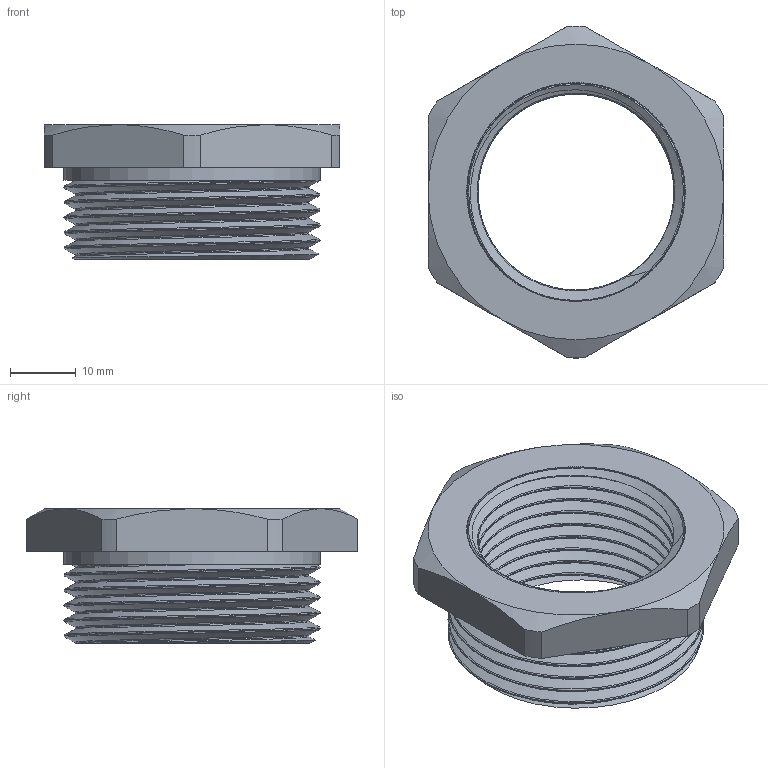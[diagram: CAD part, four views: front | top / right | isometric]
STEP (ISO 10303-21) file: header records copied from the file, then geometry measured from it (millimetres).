
FILE_DESCRIPTION(/* description */ (''),/* implementation_level */ '2;1');
FILE_NAME(/* name */ 'C:\Users\Doom\Desktop\Фадотех\Резьба\PF06 18.03.2020\PF06 18.03.2020.stp',/* time_stamp */ '2022-01-14T01:07:08+02:00',/* author */ ('Doom'),/* organization */ (''),/* preprocessor_version */ 'ST-DEVELOPER v18',/* originating_system */ 'Autodesk Inventor 2020',/* authorisation */ '');
FILE_SCHEMA (('AUTOMOTIVE_DESIGN { 1 0 10303 214 3 1 1 }'));
Length unit declared in the file: millimetre
Products named in the file (1): PF06 18.03.2020
Bounding box: 45 x 50.49 x 20.5 mm (x, y, z)
Volume: 13861.4 mm3; surface area: 17119.2 mm2
Topology: 3 solids, 3 shells, 64 faces, 165 edges, 109 vertices
Faces by surface type: cylinder 30, plane 14, bspline 12, cone 8
Full cylindrical faces by diameter (mm): 29.816 x11, 33.24 x2, 35.526 x2, 38.95 x5
Entity records: 10022 total; most frequent: CARTESIAN_POINT 8574, ORIENTED_EDGE 330, DIRECTION 232, EDGE_CURVE 165, VERTEX_POINT 109, AXIS2_PLACEMENT_3D 96, EDGE_LOOP 72, B_SPLINE_CURVE_WITH_KNOTS 70
